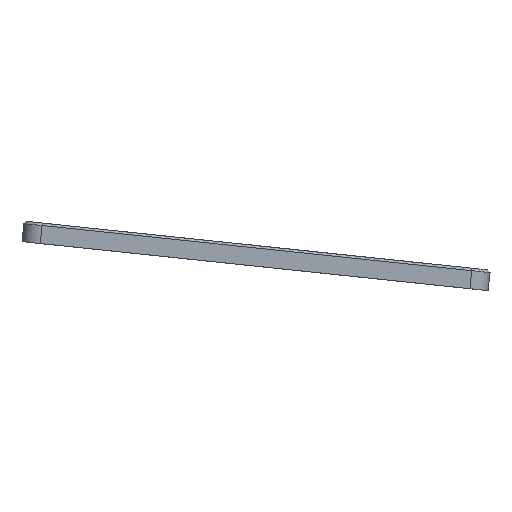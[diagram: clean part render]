
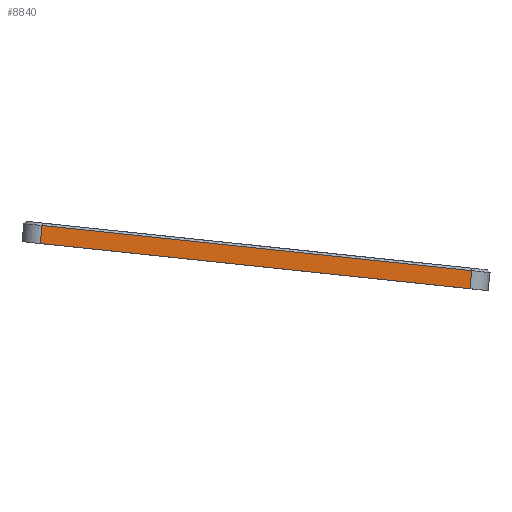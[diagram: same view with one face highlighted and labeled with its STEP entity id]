
A CAD part, left-side view. The second image highlights one B-rep face of the part: STEP entity #8840.
In plain terms, the highlighted planar face has unit normal (-1, 0, 0).
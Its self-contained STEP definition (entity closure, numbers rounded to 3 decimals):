
#510 = PLANE('',#511);
#511 = AXIS2_PLACEMENT_3D('',#512,#513,#514);
#512 = CARTESIAN_POINT('',(0.4,3.803,21.214));
#513 = DIRECTION('',(0.707,0.074,-0.703)
  );
#514 = DIRECTION('',(0.,0.995,0.105));
#3688 = VERTEX_POINT('',#3689);
#3689 = CARTESIAN_POINT('',(0.,3.845,20.816));
#3710 = EDGE_CURVE('',#3688,#3711,#3713,.T.);
#3711 = VERTEX_POINT('',#3712);
#3712 = CARTESIAN_POINT('',(0.,144.893,35.641));
#3713 = SURFACE_CURVE('',#3714,(#3718,#3725),.PCURVE_S1.);
#3714 = LINE('',#3715,#3716);
#3715 = CARTESIAN_POINT('',(0.,3.845,20.816));
#3716 = VECTOR('',#3717,1.);
#3717 = DIRECTION('',(0.,0.995,0.105));
#3718 = PCURVE('',#510,#3719);
#3719 = DEFINITIONAL_REPRESENTATION('',(#3720),#3724);
#3720 = LINE('',#3721,#3722);
#3721 = CARTESIAN_POINT('',(0.,-0.566));
#3722 = VECTOR('',#3723,1.);
#3723 = DIRECTION('',(1.,0.));
#3724 = ( GEOMETRIC_REPRESENTATION_CONTEXT(2) 
PARAMETRIC_REPRESENTATION_CONTEXT() REPRESENTATION_CONTEXT('2D SPACE',''
  ) );
#3725 = PCURVE('',#3726,#3731);
#3726 = PLANE('',#3727);
#3727 = AXIS2_PLACEMENT_3D('',#3728,#3729,#3730);
#3728 = CARTESIAN_POINT('',(0.,-1.5,14.271));
#3729 = DIRECTION('',(1.,0.,0.));
#3730 = DIRECTION('',(0.,-0.105,0.995));
#3731 = DEFINITIONAL_REPRESENTATION('',(#3732),#3736);
#3732 = LINE('',#3733,#3734);
#3733 = CARTESIAN_POINT('',(5.95,-6.));
#3734 = VECTOR('',#3735,1.);
#3735 = DIRECTION('',(0.,-1.));
#3736 = ( GEOMETRIC_REPRESENTATION_CONTEXT(2) 
PARAMETRIC_REPRESENTATION_CONTEXT() REPRESENTATION_CONTEXT('2D SPACE',''
  ) );
#3801 = CYLINDRICAL_SURFACE('',#3802,6.);
#3802 = AXIS2_PLACEMENT_3D('',#3803,#3804,#3805);
#3803 = CARTESIAN_POINT('',(6.,4.467,14.899));
#3804 = DIRECTION('',(0.,-0.105,0.995));
#3805 = DIRECTION('',(-1.,-0.,0.));
#3836 = CYLINDRICAL_SURFACE('',#3837,6.);
#3837 = AXIS2_PLACEMENT_3D('',#3838,#3839,#3840);
#3838 = CARTESIAN_POINT('',(6.,145.515,29.723));
#3839 = DIRECTION('',(0.,-0.105,0.995));
#3840 = DIRECTION('',(-1.,-0.,0.));
#8840 = ADVANCED_FACE('',(#8841),#3726,.F.);
#8841 = FACE_BOUND('',#8842,.F.);
#8842 = EDGE_LOOP('',(#8843,#8866,#8894,#8915));
#8843 = ORIENTED_EDGE('',*,*,#8844,.F.);
#8844 = EDGE_CURVE('',#8845,#3688,#8847,.T.);
#8845 = VERTEX_POINT('',#8846);
#8846 = CARTESIAN_POINT('',(0.,4.467,14.899));
#8847 = SURFACE_CURVE('',#8848,(#8852,#8859),.PCURVE_S1.);
#8848 = LINE('',#8849,#8850);
#8849 = CARTESIAN_POINT('',(0.,4.467,14.899));
#8850 = VECTOR('',#8851,1.);
#8851 = DIRECTION('',(0.,-0.105,0.995));
#8852 = PCURVE('',#3726,#8853);
#8853 = DEFINITIONAL_REPRESENTATION('',(#8854),#8858);
#8854 = LINE('',#8855,#8856);
#8855 = CARTESIAN_POINT('',(0.,-6.));
#8856 = VECTOR('',#8857,1.);
#8857 = DIRECTION('',(1.,0.));
#8858 = ( GEOMETRIC_REPRESENTATION_CONTEXT(2) 
PARAMETRIC_REPRESENTATION_CONTEXT() REPRESENTATION_CONTEXT('2D SPACE',''
  ) );
#8859 = PCURVE('',#3801,#8860);
#8860 = DEFINITIONAL_REPRESENTATION('',(#8861),#8865);
#8861 = LINE('',#8862,#8863);
#8862 = CARTESIAN_POINT('',(0.,0.));
#8863 = VECTOR('',#8864,1.);
#8864 = DIRECTION('',(0.,1.));
#8865 = ( GEOMETRIC_REPRESENTATION_CONTEXT(2) 
PARAMETRIC_REPRESENTATION_CONTEXT() REPRESENTATION_CONTEXT('2D SPACE',''
  ) );
#8866 = ORIENTED_EDGE('',*,*,#8867,.T.);
#8867 = EDGE_CURVE('',#8845,#8868,#8870,.T.);
#8868 = VERTEX_POINT('',#8869);
#8869 = CARTESIAN_POINT('',(0.,145.515,29.723));
#8870 = SURFACE_CURVE('',#8871,(#8875,#8882),.PCURVE_S1.);
#8871 = LINE('',#8872,#8873);
#8872 = CARTESIAN_POINT('',(0.,-1.5,14.271));
#8873 = VECTOR('',#8874,1.);
#8874 = DIRECTION('',(0.,0.995,0.105));
#8875 = PCURVE('',#3726,#8876);
#8876 = DEFINITIONAL_REPRESENTATION('',(#8877),#8881);
#8877 = LINE('',#8878,#8879);
#8878 = CARTESIAN_POINT('',(0.,0.));
#8879 = VECTOR('',#8880,1.);
#8880 = DIRECTION('',(0.,-1.));
#8881 = ( GEOMETRIC_REPRESENTATION_CONTEXT(2) 
PARAMETRIC_REPRESENTATION_CONTEXT() REPRESENTATION_CONTEXT('2D SPACE',''
  ) );
#8882 = PCURVE('',#8883,#8888);
#8883 = PLANE('',#8884);
#8884 = AXIS2_PLACEMENT_3D('',#8885,#8886,#8887);
#8885 = CARTESIAN_POINT('',(0.,-1.5,14.271));
#8886 = DIRECTION('',(0.,-0.105,0.995));
#8887 = DIRECTION('',(1.,0.,0.));
#8888 = DEFINITIONAL_REPRESENTATION('',(#8889),#8893);
#8889 = LINE('',#8890,#8891);
#8890 = CARTESIAN_POINT('',(0.,0.));
#8891 = VECTOR('',#8892,1.);
#8892 = DIRECTION('',(0.,1.));
#8893 = ( GEOMETRIC_REPRESENTATION_CONTEXT(2) 
PARAMETRIC_REPRESENTATION_CONTEXT() REPRESENTATION_CONTEXT('2D SPACE',''
  ) );
#8894 = ORIENTED_EDGE('',*,*,#8895,.T.);
#8895 = EDGE_CURVE('',#8868,#3711,#8896,.T.);
#8896 = SURFACE_CURVE('',#8897,(#8901,#8908),.PCURVE_S1.);
#8897 = LINE('',#8898,#8899);
#8898 = CARTESIAN_POINT('',(0.,145.515,29.723));
#8899 = VECTOR('',#8900,1.);
#8900 = DIRECTION('',(0.,-0.105,0.995));
#8901 = PCURVE('',#3726,#8902);
#8902 = DEFINITIONAL_REPRESENTATION('',(#8903),#8907);
#8903 = LINE('',#8904,#8905);
#8904 = CARTESIAN_POINT('',(0.,-147.825));
#8905 = VECTOR('',#8906,1.);
#8906 = DIRECTION('',(1.,0.));
#8907 = ( GEOMETRIC_REPRESENTATION_CONTEXT(2) 
PARAMETRIC_REPRESENTATION_CONTEXT() REPRESENTATION_CONTEXT('2D SPACE',''
  ) );
#8908 = PCURVE('',#3836,#8909);
#8909 = DEFINITIONAL_REPRESENTATION('',(#8910),#8914);
#8910 = LINE('',#8911,#8912);
#8911 = CARTESIAN_POINT('',(-0.,0.));
#8912 = VECTOR('',#8913,1.);
#8913 = DIRECTION('',(-0.,1.));
#8914 = ( GEOMETRIC_REPRESENTATION_CONTEXT(2) 
PARAMETRIC_REPRESENTATION_CONTEXT() REPRESENTATION_CONTEXT('2D SPACE',''
  ) );
#8915 = ORIENTED_EDGE('',*,*,#3710,.F.);
